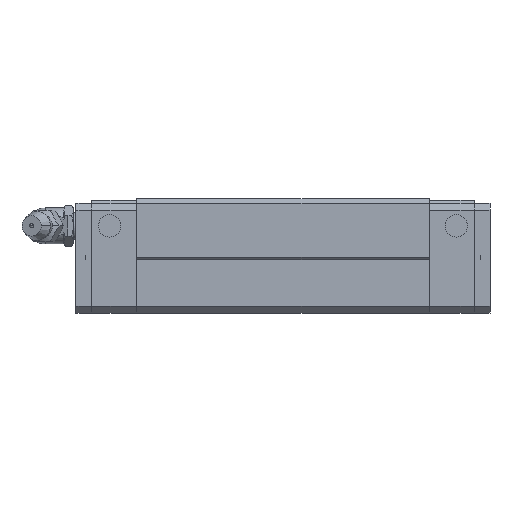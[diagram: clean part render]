
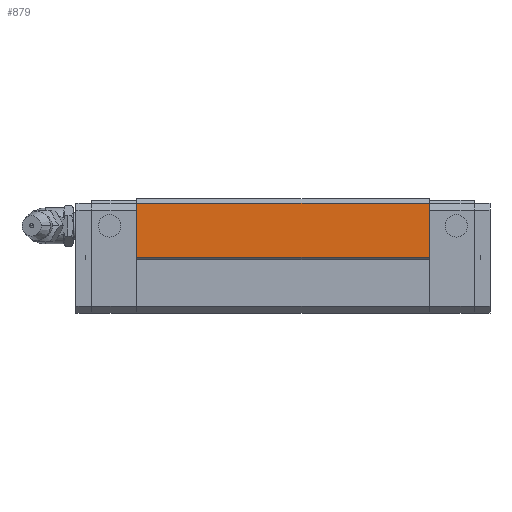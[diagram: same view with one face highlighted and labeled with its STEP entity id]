
A CAD part, front view. The second image highlights one B-rep face of the part: STEP entity #879.
In plain terms, the highlighted planar face has unit normal (0, -1, 0).
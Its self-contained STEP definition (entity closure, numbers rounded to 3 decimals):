
#818=CARTESIAN_POINT('POINT97',(78.7,-22.,
   12.4));
#819=VERTEX_POINT('VERTEX97',#818);
#826=CARTESIAN_POINT('POINT98',(13.5,-22.,
   12.4));
#827=VERTEX_POINT('VERTEX98',#826);
#828=CARTESIAN_POINT('POS163',(13.5,-22.,
   12.4));
#829=DIRECTION('DIR244',(1.,0.,0.));
#830=VECTOR('VEC82',#829,1.);
#831=LINE('STRAIGHT82',#828,#830);
#832=EDGE_CURVE('EDGE154',#827,#819,#831,.T.);
#849=CARTESIAN_POINT('POINT99',(78.7,-22.,
   24.4));
#850=VERTEX_POINT('VERTEX99',#849);
#851=CARTESIAN_POINT('POS166',(78.7,-22.,
   24.4));
#852=DIRECTION('DIR248',(0.,0.,1.));
#853=VECTOR('VEC84',#852,1.);
#854=LINE('STRAIGHT84',#851,#853);
#855=EDGE_CURVE('EDGE156',#819,#850,#854,.T.);
#856=ORIENTED_EDGE('COEDGE295',*,*,#855,.T.);
#857=CARTESIAN_POINT('POINT100',(13.5,-22.,
   24.4));
#858=VERTEX_POINT('VERTEX100',#857);
#859=CARTESIAN_POINT('POS167',(13.5,-22.,
   24.4));
#860=DIRECTION('DIR249',(1.,0.,0.));
#861=VECTOR('VEC85',#860,1.);
#862=LINE('STRAIGHT85',#859,#861);
#863=EDGE_CURVE('EDGE157',#858,#850,#862,.T.);
#864=ORIENTED_EDGE('COEDGE296',*,*,#863,.F.);
#865=CARTESIAN_POINT('POS168',(13.5,-22.,
   24.4));
#866=DIRECTION('DIR250',(0.,0.,-1.));
#867=VECTOR('VEC86',#866,1.);
#868=LINE('STRAIGHT86',#865,#867);
#869=EDGE_CURVE('EDGE158',#858,#827,#868,.T.);
#870=ORIENTED_EDGE('COEDGE297',*,*,#869,.T.);
#871=ORIENTED_EDGE('COEDGE298',*,*,#832,.T.);
#872=EDGE_LOOP('NONE',(#856,#864,#870,#871));
#873=FACE_BOUND('LOOP1',#872,.T.);
#874=CARTESIAN_POINT('POS169',(13.5,-22.,
   12.4));
#875=DIRECTION('DIR251',(0.,-1.,0.));
#876=DIRECTION('DIR252',(1.,0.,0.));
#877=AXIS2_PLACEMENT_3D('AXIS83',#874,#875,#876);
#878=PLANE('PLANE23',#877);
#879=ADVANCED_FACE('FACE75',(#873),#878,.T.);
